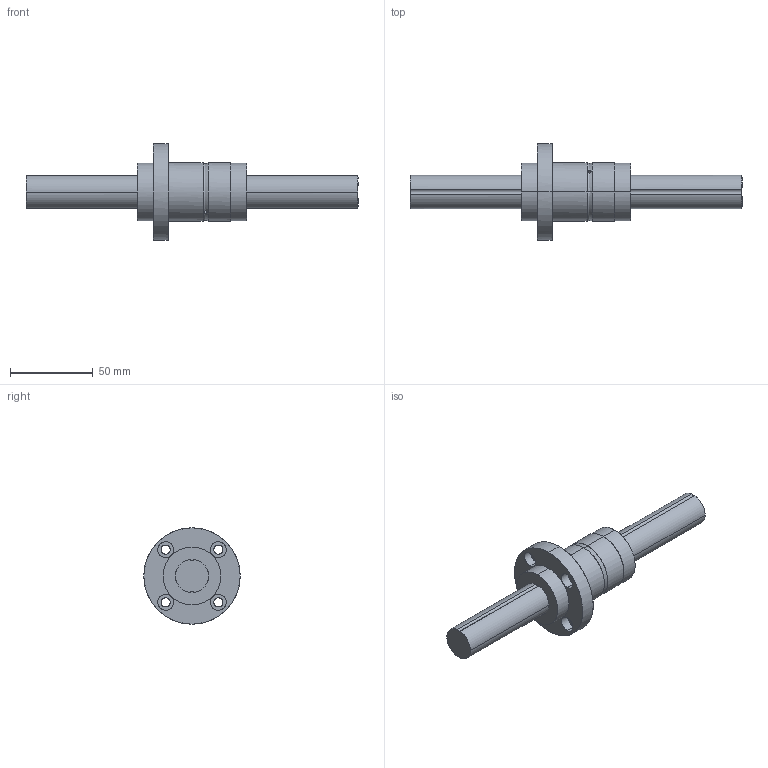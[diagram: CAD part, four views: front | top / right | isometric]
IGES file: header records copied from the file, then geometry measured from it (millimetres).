
Global section: file name: No Iges File Name specified; native system: AutoDesk Inventor R11.0; preprocessor: AutoDesk Inventor Iges Exporter R11.0; author: No Author specified; organization: No Organization specified; date: 20150223.133206; units: millimetre
Bounding box: 200 x 58 x 58 mm (x, y, z)
Surface area: 30855 mm2 (no closed solid volume)
Topology: 0 solids, 0 shells, 54 faces, 380 edges, 380 vertices
Faces by surface type: bspline 54
